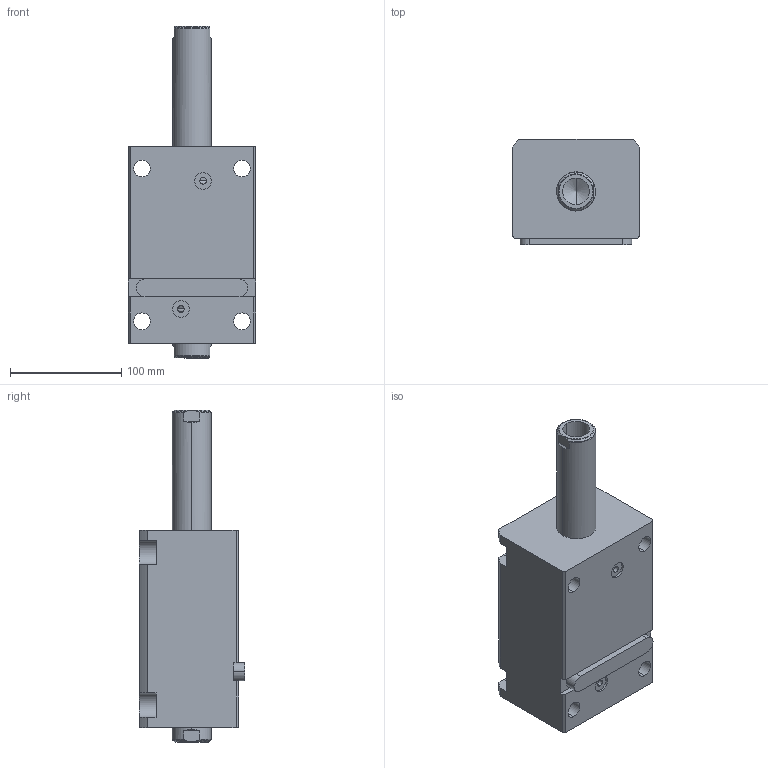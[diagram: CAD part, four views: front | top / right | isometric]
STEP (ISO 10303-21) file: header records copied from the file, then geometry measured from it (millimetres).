
FILE_DESCRIPTION (( 'STEP AP214' ), '1' );
FILE_NAME ('chtb-lwm63x95n_asm.STEP', '2018-05-22T02:22:24', ( 'Windows' ), ( 'Microsoft' ), 'SwSTEP 2.0', 'SolidWorks 2015', '' );
FILE_SCHEMA (( 'AUTOMOTIVE_DESIGN' ));
Length unit declared in the file: millimetre
Products named in the file (5): CHTB-SW63X95NHSG; CHTB-LWM63X95NBT; CHTB-LA63PJ; CHTB-63QG; chtb-lwm63x95n_asm
Assembly tree (4 placements, depth 2):
  chtb-lwm63x95n_asm
    CHTB-63QG
    CHTB-LA63PJ
    CHTB-LWM63X95NBT
    CHTB-SW63X95NHSG
Bounding box: 114 x 94.5 x 298 mm (x, y, z)
Volume: 1608250.6 mm3; surface area: 207269 mm2
Topology: 4 solids, 4 shells, 186 faces, 543 edges, 367 vertices
Faces by surface type: cylinder 103, plane 47, bspline 12, cone 12, torus 12
Entity records: 18665 total; most frequent: CARTESIAN_POINT 13839, ORIENTED_EDGE 1070, DIRECTION 834, EDGE_CURVE 535, VERTEX_POINT 367, AXIS2_PLACEMENT_3D 318, EDGE_LOOP 212, VECTOR 198
